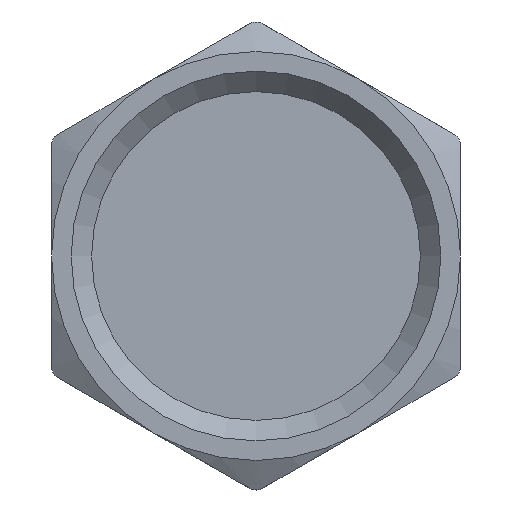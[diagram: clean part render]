
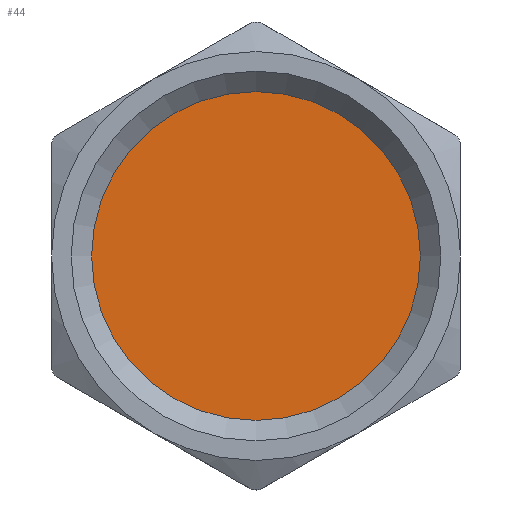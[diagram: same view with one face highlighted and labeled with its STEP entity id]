
A CAD part, front view. The second image highlights one B-rep face of the part: STEP entity #44.
In plain terms, the highlighted planar face has unit normal (0, -1, 0).
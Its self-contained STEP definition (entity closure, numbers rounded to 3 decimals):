
#44=ADVANCED_FACE('',(#130),#132,.F.);
#130=FACE_BOUND('',#131,.T.);
#131=EDGE_LOOP('',(#768));
#132=PLANE('',#133);
#133=AXIS2_PLACEMENT_3D('',#134,#135,#136);
#134=CARTESIAN_POINT('',(0.,-2.,0.));
#135=DIRECTION('',(0.,1.,0.));
#136=DIRECTION('',(-1.,0.,0.));
#768=ORIENTED_EDGE('',*,*,#1166,.T.);
#1166=EDGE_CURVE('',#1365,#1365,#1366,.T.);
#1365=VERTEX_POINT('',#1693);
#1366=CIRCLE('',#1694,12.059);
#1693=CARTESIAN_POINT('',(12.059,-2.,0.));
#1694=AXIS2_PLACEMENT_3D('',#1695,#1696,#1697);
#1695=CARTESIAN_POINT('',(0.,-2.,0.));
#1696=DIRECTION('',(0.,-1.,0.));
#1697=DIRECTION('',(1.,0.,0.));
